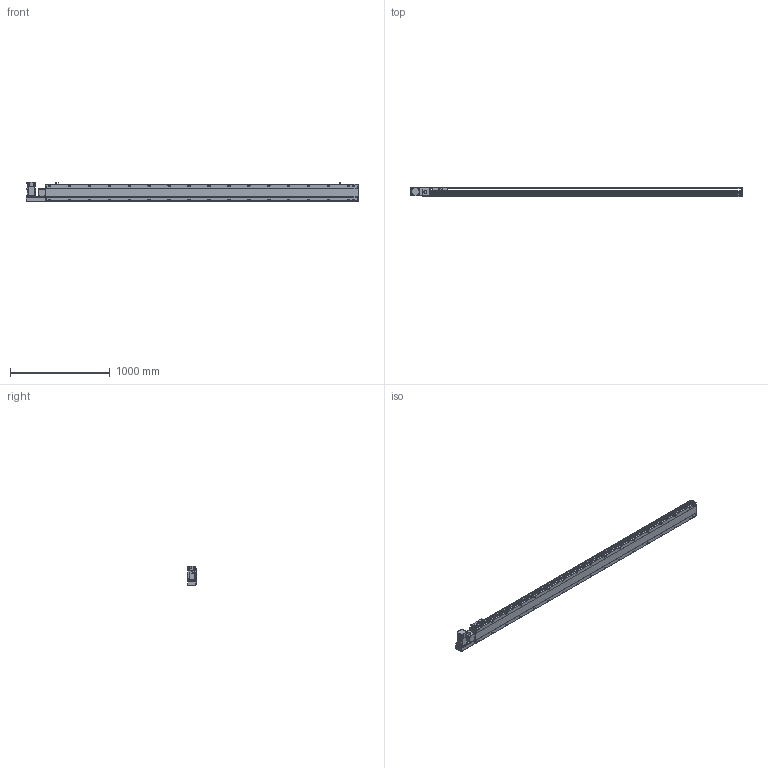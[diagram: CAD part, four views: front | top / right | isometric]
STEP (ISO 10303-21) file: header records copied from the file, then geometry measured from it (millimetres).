
FILE_DESCRIPTION( ( 'STEP AP214' ), '1' );
FILE_NAME( 'x:/temp/worker_3/temp/exporttempdir_5796_127_62aQ9/format_0/PBS170-P40-S2850-L-T75-C1-N(0).stp', '2022-06-07T06:59:20', ( 'License CC BY-ND 4.0' ), ( 'CADENAS' ), ' ', 'PARTsolutions', ' ' );
FILE_SCHEMA( ( 'AUTOMOTIVE_DESIGN { 1 0 10303 214 1 1 1 1 }' ) );
Length unit declared in the file: millimetre
Products named in the file (7): PBS170-P40-S2850-L-T75-C1-N(0); _PBS170-S2850()_body; _PBS170T-L_motors; _T75-p1; _PBS170_sliser; _PBS170_plant; _PBS170_sensor
Assembly tree (8 placements, depth 2):
  PBS170-P40-S2850-L-T75-C1-N(0)
    _PBS170-S2850()_body
    _PBS170T-L_motors
    _T75-p1
    _PBS170_sliser
    _PBS170_plant
    _PBS170_sensor  x3
Bounding box: 3328 x 97 x 197.3 mm (x, y, z)
Volume: 24169487 mm3; surface area: 3031626.1 mm2
Topology: 8 solids, 8 shells, 1226 faces, 3235 edges, 2108 vertices
Faces by surface type: plane 741, cylinder 411, cone 64, sphere 8, torus 2
Full cylindrical faces by diameter (mm): 3.242 x4, 4 x2, 4.4 x4, 4.5 x6, 4.917 x4, 6 x9, 6.647 x42, 7 x2, 7.5 x4, 8 x8, 8.5 x34, 10 x4, 10.5 x34, 11 x2, 30 x2, 40 x1, 70 x1
Entity records: 45518 total; most frequent: CARTESIAN_POINT 7733, DIRECTION 5930, ORIENTED_EDGE 5568, EDGE_CURVE 2784, AXIS2_PLACEMENT_3D 2107, VERTEX_POINT 1946, LINE 1716, VECTOR 1716
